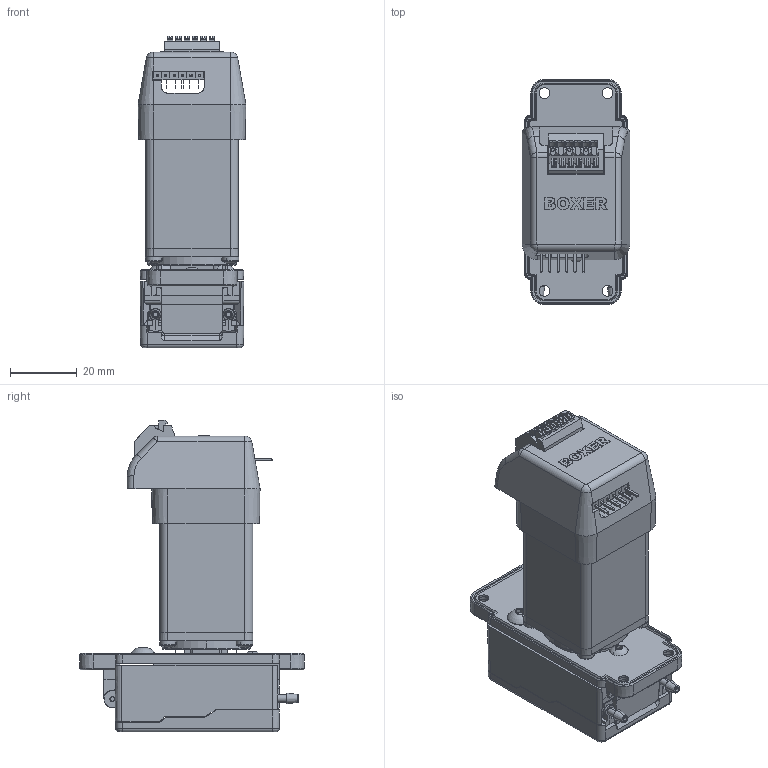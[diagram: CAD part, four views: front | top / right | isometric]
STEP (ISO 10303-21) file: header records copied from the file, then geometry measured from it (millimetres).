
FILE_DESCRIPTION (( 'STEP AP203' ), '1' );
FILE_NAME ('29QQ schlauchpumpe stepper FD.STEP', '2021-05-23T12:24:52', ( '' ), ( '' ), 'SwSTEP 2.0', 'SolidWorks 2020', '' );
FILE_SCHEMA (( 'CONFIG_CONTROL_DESIGN' ));
Length unit declared in the file: millimetre
Products named in the file (1): 29QQ schlauchpumpe stepper FD
Bounding box: 32.4 x 67.66 x 93.61 mm (x, y, z)
Surface area: 28764.7 mm2 (no closed solid volume)
Topology: 0 solids, 43 shells, 985 faces, 3414 edges, 2426 vertices
Faces by surface type: plane 566, cylinder 176, cone 131, bspline 65, torus 36, sphere 11
Entity records: 39574 total; most frequent: CARTESIAN_POINT 11503, ORIENTED_EDGE 5499, DIRECTION 5480, EDGE_CURVE 3408, VERTEX_POINT 2426, LINE 2182, VECTOR 2182, AXIS2_PLACEMENT_3D 1649
